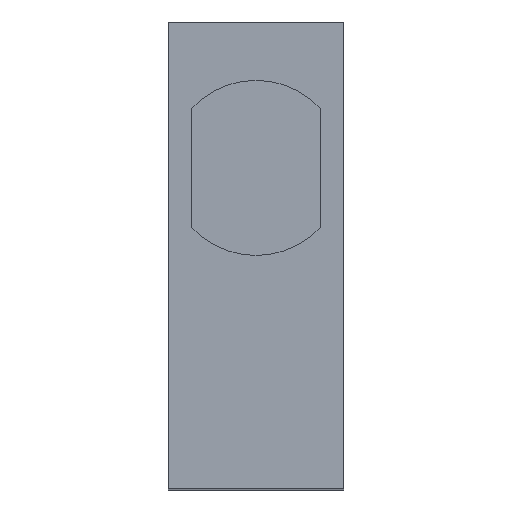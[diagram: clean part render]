
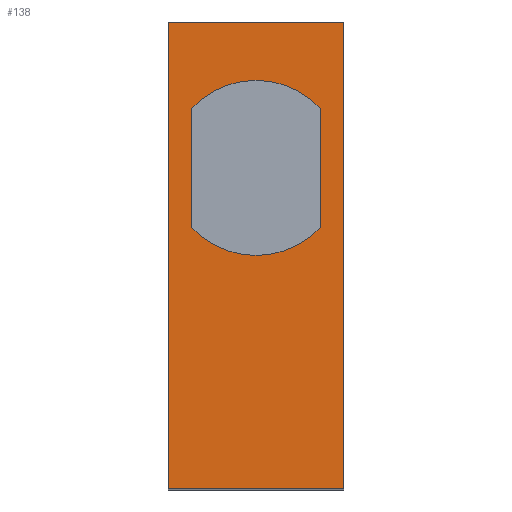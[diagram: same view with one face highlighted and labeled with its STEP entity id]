
A CAD part, top view. The second image highlights one B-rep face of the part: STEP entity #138.
In plain terms, the highlighted planar face has unit normal (0, 0, 1) as drawn and (-1, 0, 0) by its records, which use the part's own axes.
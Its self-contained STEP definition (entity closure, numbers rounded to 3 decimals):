
#13 = VERTEX_POINT ( 'NONE', #361 ) ;
#15 = EDGE_CURVE ( 'NONE', #13, #186, #382, .T. ) ;
#30 = VERTEX_POINT ( 'NONE', #293 ) ;
#66 = VERTEX_POINT ( 'NONE', #341 ) ;
#67 = ORIENTED_EDGE ( 'NONE', *, *, #68, .F. ) ;
#68 = EDGE_CURVE ( 'NONE', #142, #66, #340, .T. ) ;
#69 = EDGE_LOOP ( 'NONE', ( #70, #159, #162, #130 ) ) ;
#70 = ORIENTED_EDGE ( 'NONE', *, *, #71, .T. ) ;
#71 = EDGE_CURVE ( 'NONE', #30, #158, #496, .T. ) ;
#129 = EDGE_CURVE ( 'NONE', #163, #161, #374, .T. ) ;
#130 = ORIENTED_EDGE ( 'NONE', *, *, #131, .F. ) ;
#131 = EDGE_CURVE ( 'NONE', #30, #163, #370, .T. ) ;
#138 = ADVANCED_FACE ( 'NONE', ( #329, #328 ), #517, .F. ) ;
#139 = EDGE_LOOP ( 'NONE', ( #140, #143, #144, #155, #67 ) ) ;
#140 = ORIENTED_EDGE ( 'NONE', *, *, #141, .F. ) ;
#141 = EDGE_CURVE ( 'NONE', #186, #142, #535, .T. ) ;
#142 = VERTEX_POINT ( 'NONE', #500 ) ;
#143 = ORIENTED_EDGE ( 'NONE', *, *, #15, .F. ) ;
#144 = ORIENTED_EDGE ( 'NONE', *, *, #145, .F. ) ;
#145 = EDGE_CURVE ( 'NONE', #146, #13, #503, .T. ) ;
#146 = VERTEX_POINT ( 'NONE', #547 ) ;
#155 = ORIENTED_EDGE ( 'NONE', *, *, #156, .F. ) ;
#156 = EDGE_CURVE ( 'NONE', #66, #146, #666, .T. ) ;
#158 = VERTEX_POINT ( 'NONE', #658 ) ;
#159 = ORIENTED_EDGE ( 'NONE', *, *, #160, .T. ) ;
#160 = EDGE_CURVE ( 'NONE', #158, #161, #657, .T. ) ;
#161 = VERTEX_POINT ( 'NONE', #544 ) ;
#162 = ORIENTED_EDGE ( 'NONE', *, *, #129, .F. ) ;
#163 = VERTEX_POINT ( 'NONE', #543 ) ;
#186 = VERTEX_POINT ( 'NONE', #599 ) ;
#293 = CARTESIAN_POINT ( 'NONE',  ( 0., 2.5, 1.5 ) ) ;
#328 = FACE_OUTER_BOUND ( 'NONE', #69, .T. ) ;
#329 = FACE_BOUND ( 'NONE', #139, .T. ) ;
#339 = AXIS2_PLACEMENT_3D ( 'NONE', #499, #498, #497 ) ;
#340 = CIRCLE ( 'NONE', #339, 1.5 ) ;
#341 = CARTESIAN_POINT ( 'NONE',  ( 0., 1.02, -1.1 ) ) ;
#357 = CARTESIAN_POINT ( 'NONE',  ( 0., 0., 0. ) ) ;
#361 = CARTESIAN_POINT ( 'NONE',  ( 0., -1.5, 0. ) ) ;
#367 = DIRECTION ( 'NONE',  ( 0., -1., 0. ) ) ;
#368 = VECTOR ( 'NONE', #367, 1000. ) ;
#369 = CARTESIAN_POINT ( 'NONE',  ( 0., 2.5, 1.5 ) ) ;
#370 = LINE ( 'NONE', #369, #368 ) ;
#371 = DIRECTION ( 'NONE',  ( 0., 0., -1. ) ) ;
#372 = VECTOR ( 'NONE', #371, 1000. ) ;
#373 = CARTESIAN_POINT ( 'NONE',  ( 0., -5.5, 1.5 ) ) ;
#374 = LINE ( 'NONE', #373, #372 ) ;
#379 = DIRECTION ( 'NONE',  ( 0., -1., 0. ) ) ;
#380 = DIRECTION ( 'NONE',  ( -1., 0., 0. ) ) ;
#381 = AXIS2_PLACEMENT_3D ( 'NONE', #357, #380, #379 ) ;
#382 = CIRCLE ( 'NONE', #381, 1.5 ) ;
#493 = DIRECTION ( 'NONE',  ( 0., 0., -1. ) ) ;
#494 = VECTOR ( 'NONE', #493, 1000. ) ;
#495 = CARTESIAN_POINT ( 'NONE',  ( 0., 2.5, 1.5 ) ) ;
#496 = LINE ( 'NONE', #495, #494 ) ;
#497 = DIRECTION ( 'NONE',  ( 0., -1., 0. ) ) ;
#498 = DIRECTION ( 'NONE',  ( -1., 0., 0. ) ) ;
#499 = CARTESIAN_POINT ( 'NONE',  ( 0., 0., 0. ) ) ;
#500 = CARTESIAN_POINT ( 'NONE',  ( 0., 1.02, 1.1 ) ) ;
#501 = DIRECTION ( 'NONE',  ( 0., 1., 0. ) ) ;
#502 = AXIS2_PLACEMENT_3D ( 'NONE', #550, #549, #548 ) ;
#503 = CIRCLE ( 'NONE', #502, 1.5 ) ;
#517 = PLANE ( 'NONE',  #688 ) ;
#533 = VECTOR ( 'NONE', #501, 1000. ) ;
#534 = CARTESIAN_POINT ( 'NONE',  ( 0., -1.02, 1.1 ) ) ;
#535 = LINE ( 'NONE', #534, #533 ) ;
#536 = CARTESIAN_POINT ( 'NONE',  ( 0., 2.5, 1.5 ) ) ;
#543 = CARTESIAN_POINT ( 'NONE',  ( 0., -5.5, 1.5 ) ) ;
#544 = CARTESIAN_POINT ( 'NONE',  ( 0., -5.5, -1.5 ) ) ;
#545 = DIRECTION ( 'NONE',  ( 0., -1., 0. ) ) ;
#547 = CARTESIAN_POINT ( 'NONE',  ( 0., -1.02, -1.1 ) ) ;
#548 = DIRECTION ( 'NONE',  ( 0., -1., 0. ) ) ;
#549 = DIRECTION ( 'NONE',  ( -1., 0., 0. ) ) ;
#550 = CARTESIAN_POINT ( 'NONE',  ( 0., 0., 0. ) ) ;
#563 = DIRECTION ( 'NONE',  ( 0., 1., 0. ) ) ;
#564 = DIRECTION ( 'NONE',  ( 1., 0., 0. ) ) ;
#599 = CARTESIAN_POINT ( 'NONE',  ( 0., -1.02, 1.1 ) ) ;
#655 = VECTOR ( 'NONE', #545, 1000. ) ;
#656 = CARTESIAN_POINT ( 'NONE',  ( 0., 2.5, -1.5 ) ) ;
#657 = LINE ( 'NONE', #656, #655 ) ;
#658 = CARTESIAN_POINT ( 'NONE',  ( 0., 2.5, -1.5 ) ) ;
#663 = DIRECTION ( 'NONE',  ( 0., -1., 0. ) ) ;
#664 = VECTOR ( 'NONE', #663, 1000. ) ;
#665 = CARTESIAN_POINT ( 'NONE',  ( 0., -1.02, -1.1 ) ) ;
#666 = LINE ( 'NONE', #665, #664 ) ;
#688 = AXIS2_PLACEMENT_3D ( 'NONE', #536, #564, #563 ) ;
